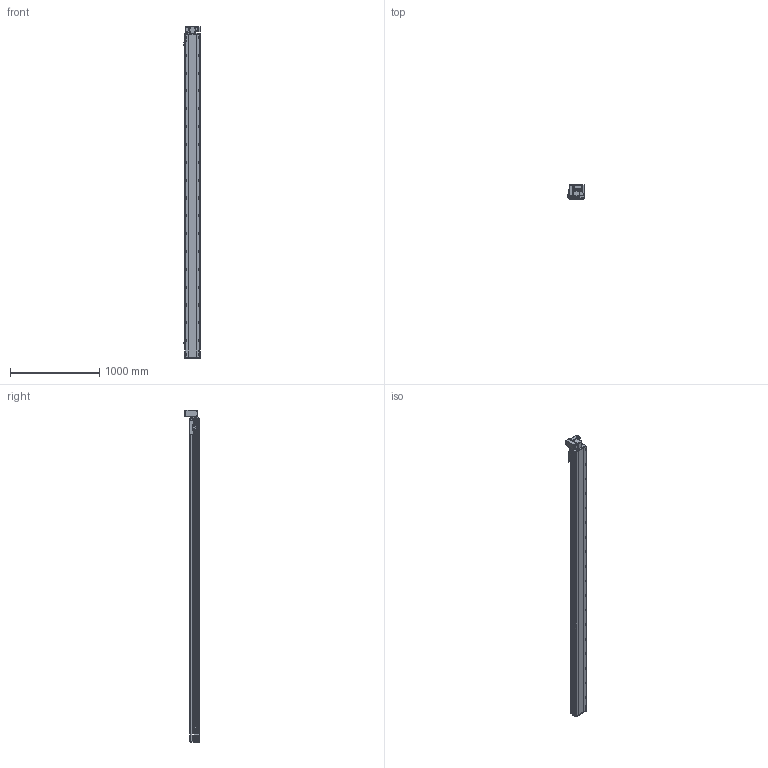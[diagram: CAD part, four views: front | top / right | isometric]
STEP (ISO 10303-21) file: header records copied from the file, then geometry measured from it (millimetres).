
FILE_DESCRIPTION (( 'STEP AP214' ), '1' );
FILE_NAME ('RTB17S-XX-3350-LW-M40-C4.STEP', '2025-12-11T07:23:28', ( '' ), ( '' ), 'SwSTEP 2.0', 'SolidWorks 2018', '' );
FILE_SCHEMA (( 'AUTOMOTIVE_DESIGN' ));
Length unit declared in the file: millimetre
Products named in the file (14): RTB17-R-011菁釱^RTB17S-XX-XX-LW-M40-C4; RTB17S-LW-々湍釱蚾饜-400W^RTB17S-XX-XX-LW-M40-C4; RTB17S-XX-3350-LW-M40-C4; RTB14-L-017P^RTB17S-LW-々湍釱蚾饜-400W_RTB17S-XX-XX-LW-M40-C4; RTB14-L-018P^RTB17S-LW-々湍釱蚾饜-400W_RTB17S-XX-XX-LW-M40-C4; RTB14-L-008-M20--萇儂啣^RTB17S-LW-々湍釱蚾饜-400W_RTB17S-XX-XX-LW-M40-C4; RTB14-L-005P--轴承塑胶压盖^RTB17S-LW-皮带座装配-400W_RTB17S-XX-XX-LW-M40-C4; 400W侜督萇儂^RTB17S-XX-XX-LW-M40-C4; RTB17S-L-004佪裝蹟譫蟀諉釱^RTB17S-XX-XX-LW-M40-C4; RTB17S-L-001耜醱啣^RTB17S-XX-XX-LW-M40-C4; RTB17S-L-014-T20--々湍釱^RTB17S-LW-々湍釱蚾饜-400W_RTB17S-XX-XX-LW-M40-C4; RTH13-BL-012覜茼え俋离^RTB17S-XX-XX-LW-M40-C4; OMRON EE-SX672 传感器^RTB17S-XX-XX-LW-M40-C4; RTB17S-L-007奻裔^RTB17S-XX-XX-LW-M40-C4
Assembly tree (16 placements, depth 3):
  RTB17S-XX-3350-LW-M40-C4
    RTB17-R-011菁釱^RTB17S-XX-XX-LW-M40-C4
    RTB17S-L-007奻裔^RTB17S-XX-XX-LW-M40-C4
    OMRON EE-SX672 传感器^RTB17S-XX-XX-LW-M40-C4  x3
    RTB17S-L-001耜醱啣^RTB17S-XX-XX-LW-M40-C4
    400W侜督萇儂^RTB17S-XX-XX-LW-M40-C4
    RTB17S-L-004佪裝蹟譫蟀諉釱^RTB17S-XX-XX-LW-M40-C4
    RTH13-BL-012覜茼え俋离^RTB17S-XX-XX-LW-M40-C4
    RTB17S-LW-々湍釱蚾饜-400W^RTB17S-XX-XX-LW-M40-C4
      RTB17S-L-014-T20--々湍釱^RTB17S-LW-々湍釱蚾饜-400W_RTB17S-XX-XX-LW-M40-C4
      RTB14-L-005P--轴承塑胶压盖^RTB17S-LW-皮带座装配-400W_RTB17S-XX-XX-LW-M40-C4
      RTB14-L-008-M20--萇儂啣^RTB17S-LW-々湍釱蚾饜-400W_RTB17S-XX-XX-LW-M40-C4
      RTB14-L-017P^RTB17S-LW-々湍釱蚾饜-400W_RTB17S-XX-XX-LW-M40-C4  x2
      RTB14-L-018P^RTB17S-LW-々湍釱蚾饜-400W_RTB17S-XX-XX-LW-M40-C4
Bounding box: 186 x 160.5 x 3722.5 mm (x, y, z)
Volume: 31538391.4 mm3; surface area: 3587899.6 mm2
Topology: 15 solids, 15 shells, 2397 faces, 6735 edges, 4401 vertices
Faces by surface type: plane 1092, cylinder 857, bspline 301, cone 139, torus 8
Entity records: 71849 total; most frequent: CARTESIAN_POINT 20540, ORIENTED_EDGE 10314, DIRECTION 9476, EDGE_CURVE 5157, VERTEX_POINT 3389, AXIS2_PLACEMENT_3D 3319, LINE 2838, VECTOR 2838
